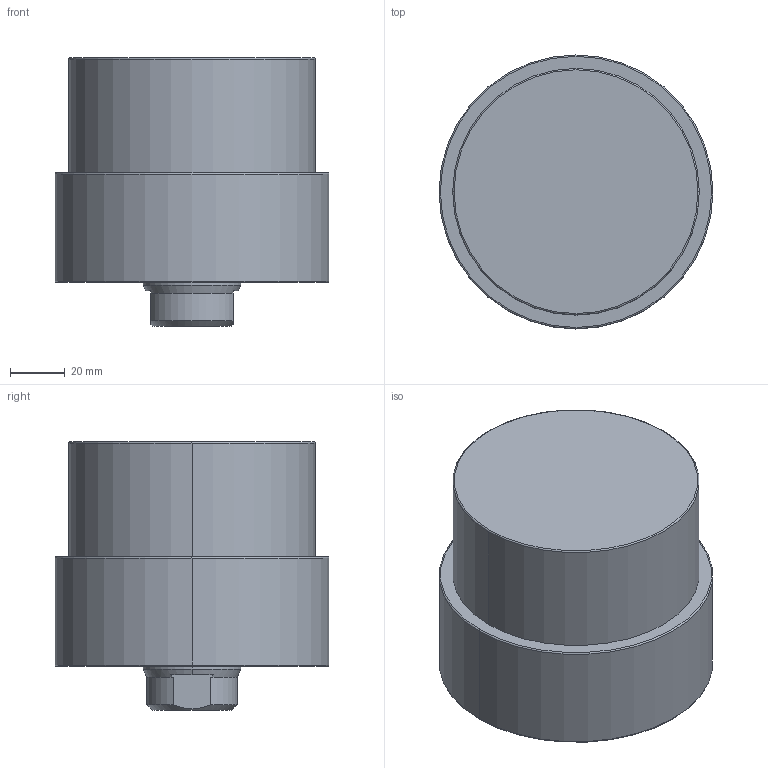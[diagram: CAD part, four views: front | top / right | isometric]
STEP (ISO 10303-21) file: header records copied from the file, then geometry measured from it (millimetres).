
FILE_DESCRIPTION (( 'STEP AP203' ), '1' );
FILE_NAME ('CLLU-090CA-020.STEP', '2020-01-11T00:28:13', ( '' ), ( '' ), 'SwSTEP 2.0', 'SolidWorks 2015', '' );
FILE_SCHEMA (( 'CONFIG_CONTROL_DESIGN' ));
Length unit declared in the file: millimetre
Products named in the file (1): CLLU-090CA-020
Bounding box: 100 x 100 x 98 mm (x, y, z)
Volume: 576901.3 mm3; surface area: 46724.7 mm2
Topology: 1 solids, 1 shells, 62 faces, 140 edges, 79 vertices
Faces by surface type: cone 24, cylinder 22, plane 10, torus 6
Entity records: 1767 total; most frequent: DIRECTION 320, CARTESIAN_POINT 316, ORIENTED_EDGE 260, AXIS2_PLACEMENT_3D 135, EDGE_CURVE 130, VERTEX_POINT 79, CIRCLE 72, EDGE_LOOP 71
